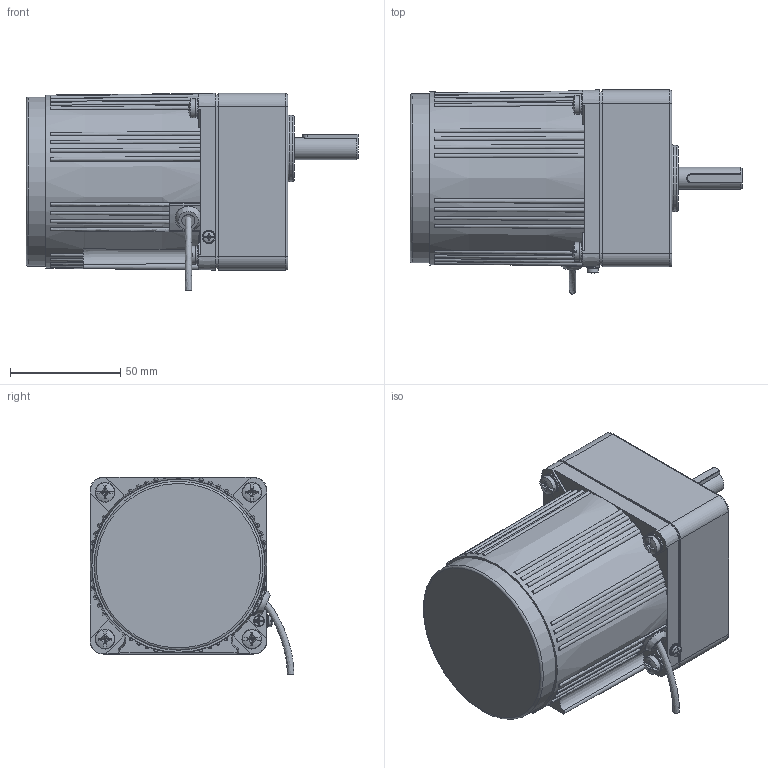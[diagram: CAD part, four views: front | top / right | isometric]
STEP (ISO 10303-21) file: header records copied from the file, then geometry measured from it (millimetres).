
FILE_DESCRIPTION(/* description */ (''),/* implementation_level */ '2;1');
FILE_NAME(/* name */ '4RK25-30CC-4GN3-20K-C·10L.stp',/* time_stamp */ '2024-11-02T10:59:53+08:00',/* author */ (''),/* organization */ (''),/* preprocessor_version */ 'ST-DEVELOPER v18.102',/* originating_system */ 'SIEMENS PLM Software NX 2027',/* authorisation */ '');
FILE_SCHEMA (('AP203_CONFIGURATION_CONTROLLED_3D_DESIGN_OF_MECHANICAL_PARTS_AND_ASSEMBLIES_MIM_LF { 1 0 10303 403 2 1 2}'));
Length unit declared in the file: millimetre
Products named in the file (1): A0_objects
Bounding box: 150.3 x 92.25 x 89.33 mm (x, y, z)
Volume: 639953.7 mm3; surface area: 76852.8 mm2
Topology: 8 solids, 8 shells, 748 faces, 1962 edges, 1278 vertices
Faces by surface type: bspline 287, plane 249, cylinder 93, cone 56, revolution 30, torus 19, sphere 14
Full cylindrical faces by diameter (mm): 2.6 x1, 2.7 x1, 3.2 x1, 4 x1, 4.2 x4, 4.4 x1, 4.6 x4, 5 x5, 5.1 x1, 5.3 x4, 6 x6, 6.5 x4, 8.2 x1, 8.5 x4, 9 x4, 10 x1, 10.5 x1, 19 x1, 26 x1, 30 x1, 56 x1, 67 x1, 75 x2, 76.5 x1, 77.5 x1
Entity records: 31044 total; most frequent: CARTESIAN_POINT 15564, ORIENTED_EDGE 3580, DIRECTION 2186, EDGE_CURVE 1790, VERTEX_POINT 1210, B_SPLINE_CURVE_WITH_KNOTS 977, EDGE_LOOP 923, AXIS2_PLACEMENT_3D 885
